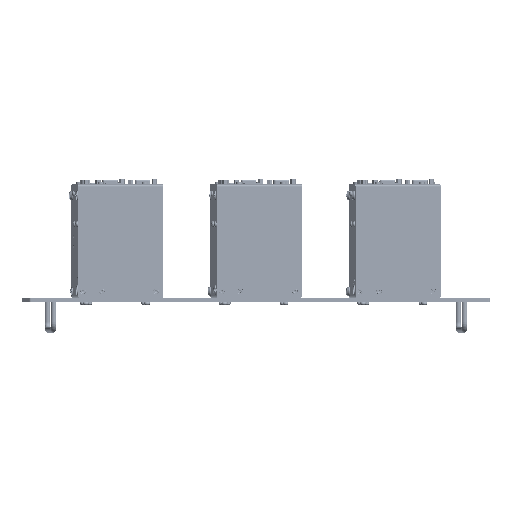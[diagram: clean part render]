
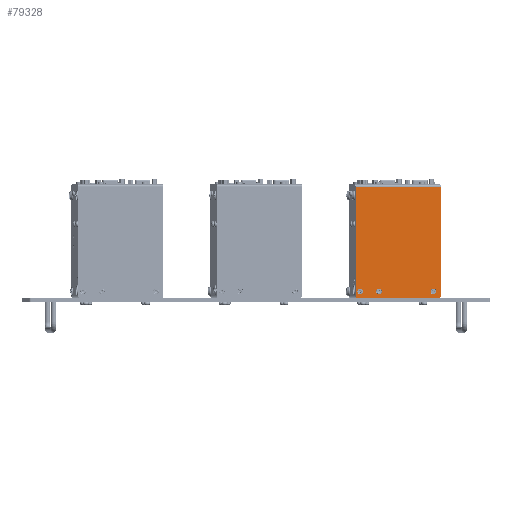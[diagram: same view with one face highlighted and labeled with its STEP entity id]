
A CAD part, front view. The second image highlights one B-rep face of the part: STEP entity #79328.
In plain terms, the highlighted planar face has unit normal (0.084, -0.997, 0).
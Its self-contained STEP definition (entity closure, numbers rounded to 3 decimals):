
#3542=LINE('',#125204,#9541);
#3551=LINE('',#125233,#9550);
#3557=LINE('',#125252,#9556);
#3621=LINE('',#125410,#9620);
#9541=VECTOR('',#97872,10.);
#9550=VECTOR('',#97895,10.);
#9556=VECTOR('',#97915,10.);
#9620=VECTOR('',#98127,10.);
#15308=FACE_BOUND('',#22084,.T.);
#15309=FACE_BOUND('',#22085,.T.);
#15310=FACE_BOUND('',#22086,.T.);
#16993=FACE_OUTER_BOUND('',#22083,.T.);
#22083=EDGE_LOOP('',(#54180,#54181,#54182,#54183,#54184,#54185));
#22084=EDGE_LOOP('',(#54186,#54187));
#22085=EDGE_LOOP('',(#54188,#54189));
#22086=EDGE_LOOP('',(#54190,#54191));
#27371=CIRCLE('',#85283,2.);
#27374=CIRCLE('',#85291,2.);
#27375=CIRCLE('',#85293,3.);
#27376=CIRCLE('',#85294,3.);
#27377=CIRCLE('',#85296,3.);
#27378=CIRCLE('',#85297,3.);
#27379=CIRCLE('',#85299,3.);
#27380=CIRCLE('',#85300,3.);
#32202=VERTEX_POINT('',#125192);
#32206=VERTEX_POINT('',#125202);
#32218=VERTEX_POINT('',#125230);
#32219=VERTEX_POINT('',#125232);
#32224=VERTEX_POINT('',#125249);
#32225=VERTEX_POINT('',#125251);
#32234=VERTEX_POINT('',#125364);
#32235=VERTEX_POINT('',#125365);
#32236=VERTEX_POINT('',#125370);
#32237=VERTEX_POINT('',#125371);
#32238=VERTEX_POINT('',#125376);
#32239=VERTEX_POINT('',#125377);
#40155=EDGE_CURVE('',#32206,#32202,#3542,.T.);
#40168=EDGE_CURVE('',#32218,#32219,#3551,.T.);
#40178=EDGE_CURVE('',#32224,#32225,#3557,.T.);
#40222=EDGE_CURVE('',#32219,#32206,#27371,.T.);
#40235=EDGE_CURVE('',#32225,#32218,#27374,.T.);
#40236=EDGE_CURVE('',#32234,#32235,#27375,.T.);
#40237=EDGE_CURVE('',#32235,#32234,#27376,.T.);
#40239=EDGE_CURVE('',#32236,#32237,#27377,.T.);
#40240=EDGE_CURVE('',#32237,#32236,#27378,.T.);
#40242=EDGE_CURVE('',#32238,#32239,#27379,.T.);
#40243=EDGE_CURVE('',#32239,#32238,#27380,.T.);
#40260=EDGE_CURVE('',#32224,#32202,#3621,.T.);
#54180=ORIENTED_EDGE('',*,*,#40222,.F.);
#54181=ORIENTED_EDGE('',*,*,#40168,.F.);
#54182=ORIENTED_EDGE('',*,*,#40235,.F.);
#54183=ORIENTED_EDGE('',*,*,#40178,.F.);
#54184=ORIENTED_EDGE('',*,*,#40260,.T.);
#54185=ORIENTED_EDGE('',*,*,#40155,.F.);
#54186=ORIENTED_EDGE('',*,*,#40236,.T.);
#54187=ORIENTED_EDGE('',*,*,#40237,.T.);
#54188=ORIENTED_EDGE('',*,*,#40239,.T.);
#54189=ORIENTED_EDGE('',*,*,#40240,.T.);
#54190=ORIENTED_EDGE('',*,*,#40242,.T.);
#54191=ORIENTED_EDGE('',*,*,#40243,.T.);
#72081=PLANE('',#85320);
#79328=ADVANCED_FACE('',(#16993,#15308,#15309,#15310),#72081,.T.);
#85283=AXIS2_PLACEMENT_3D('',#125336,#98039,#98040);
#85291=AXIS2_PLACEMENT_3D('',#125362,#98065,#98066);
#85293=AXIS2_PLACEMENT_3D('',#125366,#98069,#98070);
#85294=AXIS2_PLACEMENT_3D('',#125367,#98071,#98072);
#85296=AXIS2_PLACEMENT_3D('',#125372,#98076,#98077);
#85297=AXIS2_PLACEMENT_3D('',#125373,#98078,#98079);
#85299=AXIS2_PLACEMENT_3D('',#125378,#98083,#98084);
#85300=AXIS2_PLACEMENT_3D('',#125379,#98085,#98086);
#85320=AXIS2_PLACEMENT_3D('',#125418,#98136,#98137);
#97872=DIRECTION('',(0.,0.,1.));
#97895=DIRECTION('',(-0.996,-0.084,0.));
#97915=DIRECTION('',(0.,0.,-1.));
#98039=DIRECTION('center_axis',(-0.084,0.996,0.));
#98040=DIRECTION('ref_axis',(-0.705,-0.06,-0.707));
#98065=DIRECTION('center_axis',(-0.084,0.996,0.));
#98066=DIRECTION('ref_axis',(0.705,0.06,-0.707));
#98069=DIRECTION('center_axis',(-0.084,0.996,0.));
#98070=DIRECTION('ref_axis',(0.,0.,
-1.));
#98071=DIRECTION('center_axis',(-0.084,0.996,0.));
#98072=DIRECTION('ref_axis',(0.,0.,
-1.));
#98076=DIRECTION('center_axis',(-0.084,0.996,0.));
#98077=DIRECTION('ref_axis',(0.,0.,
-1.));
#98078=DIRECTION('center_axis',(-0.084,0.996,0.));
#98079=DIRECTION('ref_axis',(0.,0.,
-1.));
#98083=DIRECTION('center_axis',(-0.084,0.996,0.));
#98084=DIRECTION('ref_axis',(0.,0.,
-1.));
#98085=DIRECTION('center_axis',(-0.084,0.996,0.));
#98086=DIRECTION('ref_axis',(0.,0.,
-1.));
#98127=DIRECTION('',(-0.996,-0.084,0.));
#98136=DIRECTION('center_axis',(0.084,-0.996,0.));
#98137=DIRECTION('ref_axis',(0.,0.,
-1.));
#125192=CARTESIAN_POINT('',(247.885,-75.212,-0.5));
#125202=CARTESIAN_POINT('',(247.885,-75.212,-114.5));
#125204=CARTESIAN_POINT('',(247.885,-75.212,2.1));
#125230=CARTESIAN_POINT('',(334.576,-67.891,-116.5));
#125232=CARTESIAN_POINT('',(249.877,-75.043,-116.5));
#125233=CARTESIAN_POINT('',(336.569,-67.722,-116.5));
#125249=CARTESIAN_POINT('',(336.569,-67.722,-0.5));
#125251=CARTESIAN_POINT('',(336.569,-67.722,-114.5));
#125252=CARTESIAN_POINT('',(336.569,-67.722,-0.5));
#125336=CARTESIAN_POINT('Origin',(249.877,-75.043,-114.5));
#125362=CARTESIAN_POINT('Origin',(334.576,-67.891,-114.5));
#125364=CARTESIAN_POINT('',(272.297,-73.15,-112.5));
#125365=CARTESIAN_POINT('',(272.297,-73.15,-106.5));
#125366=CARTESIAN_POINT('Origin',(272.297,-73.15,-109.5));
#125367=CARTESIAN_POINT('Origin',(272.297,-73.15,-109.5));
#125370=CARTESIAN_POINT('',(329.095,-68.353,-112.5));
#125371=CARTESIAN_POINT('',(329.095,-68.353,-106.5));
#125372=CARTESIAN_POINT('Origin',(329.095,-68.353,-109.5));
#125373=CARTESIAN_POINT('Origin',(329.095,-68.353,-109.5));
#125376=CARTESIAN_POINT('',(252.867,-74.791,-112.5));
#125377=CARTESIAN_POINT('',(252.867,-74.791,-106.5));
#125378=CARTESIAN_POINT('Origin',(252.867,-74.791,-109.5));
#125379=CARTESIAN_POINT('Origin',(252.867,-74.791,-109.5));
#125410=CARTESIAN_POINT('',(292.227,-71.467,-0.5));
#125418=CARTESIAN_POINT('Origin',(292.227,-71.467,-57.2));
